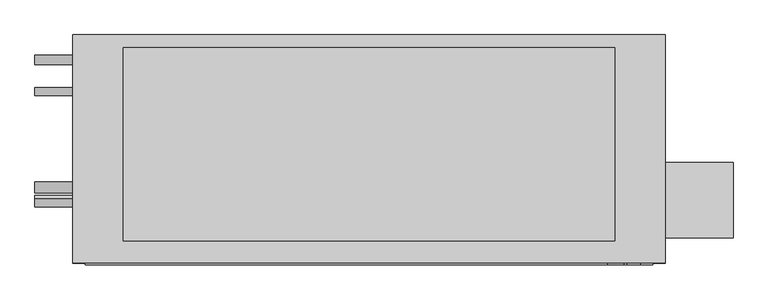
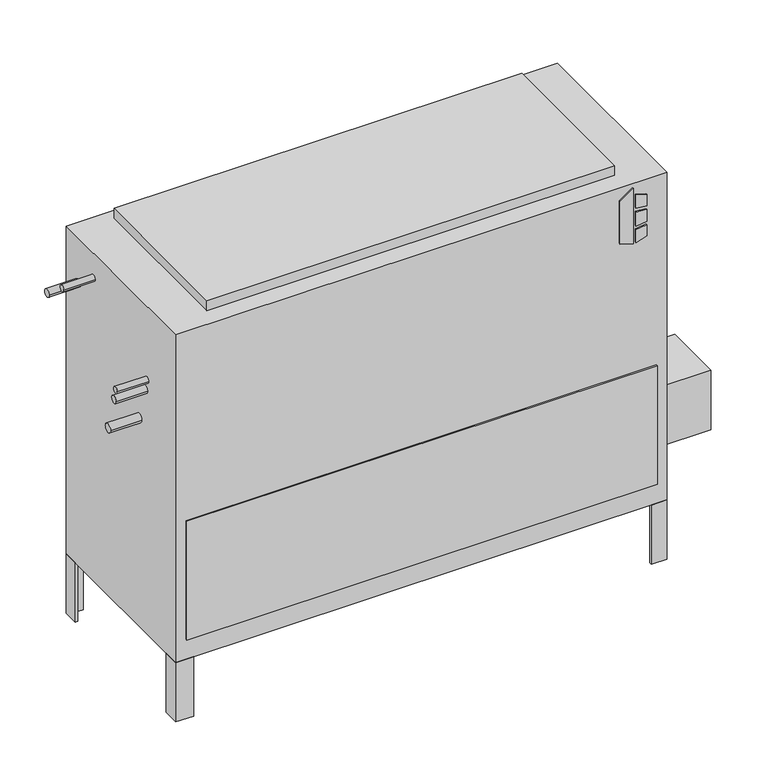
"""IFC4 building model written with IfcOpenShell, lengths in millimetres: proxy geometry, Concealed_High_Capacity_Vertical_Fan_Coil_Unit_-_VEY_-_IEC_-_4-Pipe_LH_2022 : Size 16 - 277v/60Hz/1Ph - 4/2 Coil."""

from ifc_helpers import new_model, si_unit, point, frame, frame_2d, origin, origin_with_axes, place, context, project, spatial, polyline, circle_curve, trimmed, segment, composite_curve, outline, extrude, source, transform, mapped, element, save


def mechanical_equipment_c5dd5ee2(model_context):
    return source(origin(), model_context, "Body", "SweptSolid", [
        extrude(outline(polyline([(698.9230703, 633.4868862), (688.975, 665.6602728), (831.1459244, 665.6602728), (808.1239183, 633.4868862), (698.9230703, 633.4868862)])), frame((0.0, -471.4875, 0.0), z_axis=(0.0, 1.0, 0.0), x_axis=(0.0, 0.0, 1.0)), (0.0, 0.0, 1.0), 3.175),
        extrude(outline(polyline([(777.9223557, 672.4186058), (774.7199632, 698.5), (803.9488042, 698.5), (812.0132193, 672.4186058), (777.9223557, 672.4186058)])), frame((0.0, -471.4875, 0.0), z_axis=(0.0, 1.0, 0.0), x_axis=(0.0, 0.0, 1.0)), (0.0, 0.0, 1.0), 3.175),
        extrude(outline(polyline([(726.0588288, 698.5), (722.3933279, 672.4186058), (688.975, 672.4186058), (697.6092372, 698.5), (726.0588288, 698.5)])), frame((0.0, -471.4875, 0.0), z_axis=(0.0, 1.0, 0.0), x_axis=(0.0, 0.0, 1.0)), (0.0, 0.0, 1.0), 3.175),
        extrude(outline(polyline([(765.3739903, 698.5), (767.6558166, 672.4186058), (731.7182681, 672.4186058), (734.4595331, 698.5), (765.3739903, 698.5)])), frame((0.0, -471.4875, 0.0), z_axis=(0.0, 1.0, 0.0), x_axis=(0.0, 0.0, 1.0)), (0.0, 0.0, 1.0), 3.175),
        extrude(outline(polyline([(885.825, -265.1125), (885.825, -417.5125), (749.3, -417.5125), (749.3, -265.1125), (885.825, -265.1125)])), frame((0.0, 0.0, 101.6), z_axis=(0.0, 0.0, 1.0), x_axis=(1.0, 0.0, 0.0)), (0.0, 0.0, 1.0), 152.4),
        extrude(outline(polyline([(749.3, -46.0375), (742.95, -46.0375), (742.95, -14.2875), (711.2, -14.2875), (711.2, -7.9375), (749.3, -7.9375), (749.3, -46.0375)])), frame((0.0, 0.0, -152.4), z_axis=(0.0, 0.0, 1.0), x_axis=(1.0, 0.0, 0.0)), (0.0, 0.0, 1.0), 152.4),
        extrude(outline(polyline([(-406.4, -7.9375), (-406.4, -14.2875), (-438.15, -14.2875), (-438.15, -46.0375), (-444.5, -46.0375), (-444.5, -7.9375), (-406.4, -7.9375)])), frame((0.0, 0.0, -152.4), z_axis=(0.0, 0.0, 1.0), x_axis=(1.0, 0.0, 0.0)), (0.0, 0.0, 1.0), 152.4),
        extrude(outline(polyline([(711.2, -468.3125), (711.2, -461.9625), (742.95, -461.9625), (742.95, -430.2125), (749.3, -430.2125), (749.3, -468.3125), (711.2, -468.3125)])), frame((0.0, 0.0, -152.4), z_axis=(0.0, 0.0, 1.0), x_axis=(1.0, 0.0, 0.0)), (0.0, 0.0, 1.0), 152.4),
        extrude(outline(polyline([(-444.5, -428.1199163), (-438.15, -428.1199163), (-438.15, -461.9625), (-401.0318533, -461.9625), (-401.0318533, -468.3125), (-444.5, -468.3125), (-444.5, -428.1199163)])), frame((0.0, 0.0, -152.4), z_axis=(0.0, 0.0, 1.0), x_axis=(1.0, 0.0, 0.0)), (0.0, 0.0, 1.0), 152.4),
        extrude(outline(polyline([(647.7, -33.3375), (647.7, -423.8625), (-342.9, -423.8625), (-342.9, -33.3375), (647.7, -33.3375)])), frame((0.0, 0.0, 841.375), z_axis=(0.0, 0.0, 1.0), x_axis=(1.0, 0.0, 0.0)), (0.0, 0.0, 1.0), 25.4),
        extrude(outline(polyline([(723.9, -471.4875), (-419.1, -471.4875), (-419.1, -468.3125), (723.9, -468.3125), (723.9, -471.4875)])), frame((0.0, 0.0, 50.8), z_axis=(0.0, 0.0, 1.0), x_axis=(1.0, 0.0, 0.0)), (0.0, 0.0, 1.0), 304.8),
        extrude(outline(composite_curve([segment(trimmed(circle_curve(frame_2d((-122.2375, 777.875)), 7.9375), [point((-130.175, 777.875))], [point((-114.3, 777.875))], False, "CARTESIAN"), True, "CONTINUOUS"), segment(trimmed(circle_curve(frame_2d((-122.2375, 777.875)), 7.9375), [point((-114.3, 777.875))], [point((-130.175, 777.875))], False, "CARTESIAN"), True, "CONTINUOUS")], self_intersect=False)), frame((-520.7, 0.0, 0.0), z_axis=(1.0, 0.0, 0.0), x_axis=(0.0, 1.0, 0.0)), (0.0, 0.0, 1.0), 76.2),
        extrude(outline(composite_curve([segment(trimmed(circle_curve(frame_2d((-347.3848135, 653.2230057)), 7.9375), [point((-355.3223135, 653.2230057))], [point((-339.4473135, 653.2230057))], False, "CARTESIAN"), True, "CONTINUOUS"), segment(trimmed(circle_curve(frame_2d((-347.3848135, 653.2230057)), 7.9375), [point((-339.4473135, 653.2230057))], [point((-355.3223135, 653.2230057))], False, "CARTESIAN"), True, "CONTINUOUS")], self_intersect=False)), frame((-520.7, 0.0, 0.0), z_axis=(1.0, 0.0, 0.0), x_axis=(0.0, 1.0, 0.0)), (0.0, 0.0, 1.0), 76.2),
        extrude(outline(composite_curve([segment(trimmed(circle_curve(frame_2d((-58.7375, 727.075)), 9.525), [point((-68.2625, 727.075))], [point((-49.2125, 727.075))], False, "CARTESIAN"), True, "CONTINUOUS"), segment(trimmed(circle_curve(frame_2d((-58.7375, 727.075)), 9.525), [point((-49.2125, 727.075))], [point((-68.2625, 727.075))], False, "CARTESIAN"), True, "CONTINUOUS")], self_intersect=False)), frame((-520.7, 0.0, 0.0), z_axis=(1.0, 0.0, 0.0), x_axis=(0.0, 1.0, 0.0)), (0.0, 0.0, 1.0), 76.2),
        extrude(outline(composite_curve([segment(trimmed(circle_curve(frame_2d((-341.3125, 625.475)), 9.525), [point((-350.8375, 625.475))], [point((-331.7875, 625.475))], False, "CARTESIAN"), True, "CONTINUOUS"), segment(trimmed(circle_curve(frame_2d((-341.3125, 625.475)), 9.525), [point((-331.7875, 625.475))], [point((-350.8375, 625.475))], False, "CARTESIAN"), True, "CONTINUOUS")], self_intersect=False)), frame((-520.7, 0.0, 0.0), z_axis=(1.0, 0.0, 0.0), x_axis=(0.0, 1.0, 0.0)), (0.0, 0.0, 1.0), 76.2),
        extrude(outline(composite_curve([segment(trimmed(circle_curve(frame_2d((-315.9125, 536.575)), 11.1125), [point((-327.025, 536.575))], [point((-304.8, 536.575))], False, "CARTESIAN"), True, "CONTINUOUS"), segment(trimmed(circle_curve(frame_2d((-315.9125, 536.575)), 11.1125), [point((-304.8, 536.575))], [point((-327.025, 536.575))], False, "CARTESIAN"), True, "CONTINUOUS")], self_intersect=False)), frame((-520.7, 0.0, 0.0), z_axis=(1.0, 0.0, 0.0), x_axis=(0.0, 1.0, 0.0)), (0.0, 0.0, 1.0), 76.2),
        extrude(outline(polyline([(749.3, -7.9375), (749.3, -468.3125), (-444.5, -468.3125), (-444.5, -7.9375), (749.3, -7.9375)])), origin_with_axes(), (0.0, 0.0, 1.0), 841.375),
    ])


if __name__ == "__main__":
    model = new_model("IFC4")
    model_context = context("Model", 3, world=origin())
    ifc_project = project(units=[si_unit("LENGTHUNIT", "METRE", prefix="MILLI")], contexts=[model_context])
    site = spatial("IfcSite", under=ifc_project)
    building = spatial("IfcBuilding", under=site)
    placement = place(None, origin())
    mechanical_equipment_shape = mechanical_equipment_c5dd5ee2(model_context)
    element("IfcBuildingElementProxy", 1, Name="Concealed_High_Capacity_Vertical_Fan_Coil_Unit_-_VEY_-_IEC_-_4-Pipe_LH_2022 : Size 16 - 277v/60Hz/1Ph - 4/2 Coil", ObjectType="Concealed_High_Capacity_Vertical_Fan_Coil_Unit_-_VEY_-_IEC_-_4-Pipe_LH_2022 : Size 16 - 277v/60Hz/1Ph - 4/2 Coil", at=placement, inside=building, context=model_context, shape_type="MappedRepresentation", body=[
        mapped(mechanical_equipment_shape, transform((0.0, 0.0, 0.0), x_axis=(1.0, 0.0, 0.0), y_axis=(0.0, 1.0, 0.0), z_axis=(0.0, 0.0, 1.0))),
    ])
    save(model, "model.ifc")
